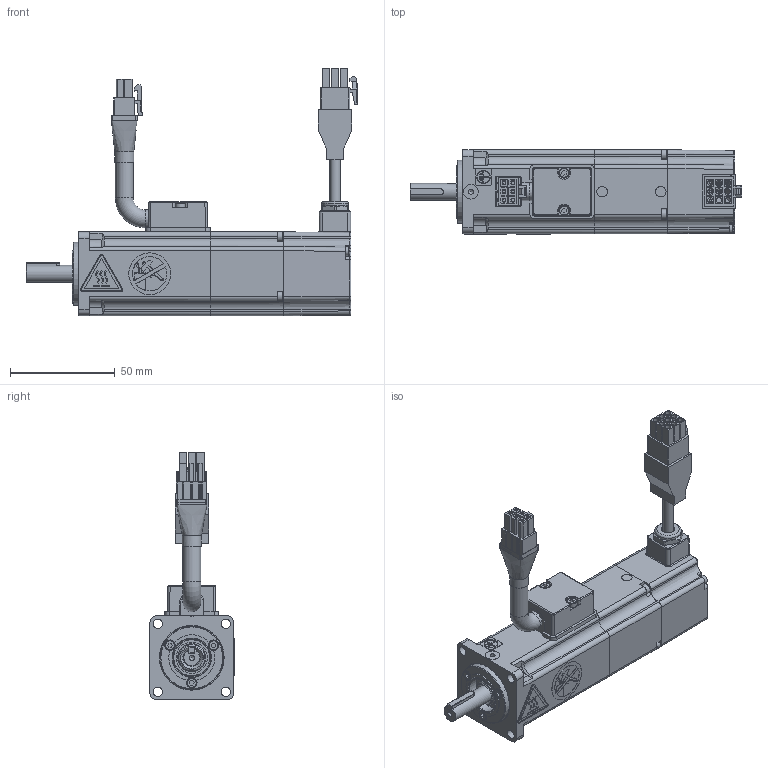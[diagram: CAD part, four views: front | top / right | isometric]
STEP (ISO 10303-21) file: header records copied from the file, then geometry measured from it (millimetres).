
FILE_DESCRIPTION(/* description */ ('AdapterTestApp'),/* implementation_level */ '2;1');
FILE_NAME(/* name */ 'TCE40 1B XX 3 A2 1 D0',/* time_stamp */ '2015-09-25T11:55:24+02:00',/* author */ ('AdapterTestApp'),/* organization */ ('Siemens PLM Software'),/* preprocessor_version */ 'ST-DEVELOPER v15.6',/* originating_system */ 'DEX',/* authorisation */ $);
FILE_SCHEMA (('AUTOMOTIVE_DESIGN {1 0 10303 214 3 1 1}'));
Products named in the file (33): TCE40 1B XX 3 A2 1 D0_vuoto; 003103001506; 005123000910; U5190004_vuoto; 003120002501; 001799000503; 005911000598; 003108015152_curva; 003303000376; 005453000452_D8,5; 007102000211; 001107000616; 003108020178_dritto; 005603001018; 003303000021; 005711000200; 005123000992; 003155000300; 005911001001; 003003050013; 003911000272; 005008000104; 005008000134; 005113000108; 005911003639; 005204000004; 005204000002; 003251022000; 005119000350; 005204000001; 005911000185
Assembly tree (45 placements, depth 4):
  TCE40 1B XX 3 A2 1 D0_vuoto
    003103001506
    005123000910
    U5190004_vuoto
      003120002501
      001799000503
      005911000598  x2
      003108015152_curva
        003108015152_curva
        003303000376
        005453000452_D8,5
    007102000211
      001107000616
      003108020178_dritto
        003108020178_dritto
        005603001018
        003303000021
        005711000200  x2
    005123000992
    003155000300
    005911001001  x4
    003003050013
    003911000272  x2
    005008000104  x2
    005008000134  x3
    005113000108
    005911003639  x3
    005204000004
    005204000002
    003251022000
    005119000350
    005204000001
    005911000185  x3
Bounding box: 158.41 x 40.4 x 118.3 mm (x, y, z)
Volume: 92948.1 mm3; surface area: 88254.8 mm2
Topology: 47 solids, 47 shells, 2033 faces, 5144 edges, 3324 vertices
Faces by surface type: plane 1309, cylinder 408, cone 107, torus 89, bspline 63, extrusion 37, sphere 20
Full cylindrical faces by diameter (mm): 2.013 x25, 2.459 x11, 2.5 x16, 2.6 x9, 2.7 x14, 4.2 x2, 4.5 x4, 4.7 x13, 5 x9, 5.2 x1, 5.3 x2, 5.5 x1, 5.99 x1, 6 x3, 6.5 x1, 7 x1, 7.2 x1, 7.99 x1, 8 x4, 8.1 x1, 8.5 x2, 8.51 x1, 9.11 x1, 9.5 x1, 10 x2, 10.16 x2, 10.3 x2, 10.647 x1, 11 x2, 11.16 x2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
Entity records: 62766 total; most frequent: CARTESIAN_POINT 17808, DIRECTION 8773, ORIENTED_EDGE 8750, EDGE_CURVE 4375, VECTOR 3123, LINE 3086, VERTEX_POINT 3010, AXIS2_PLACEMENT_3D 2825
